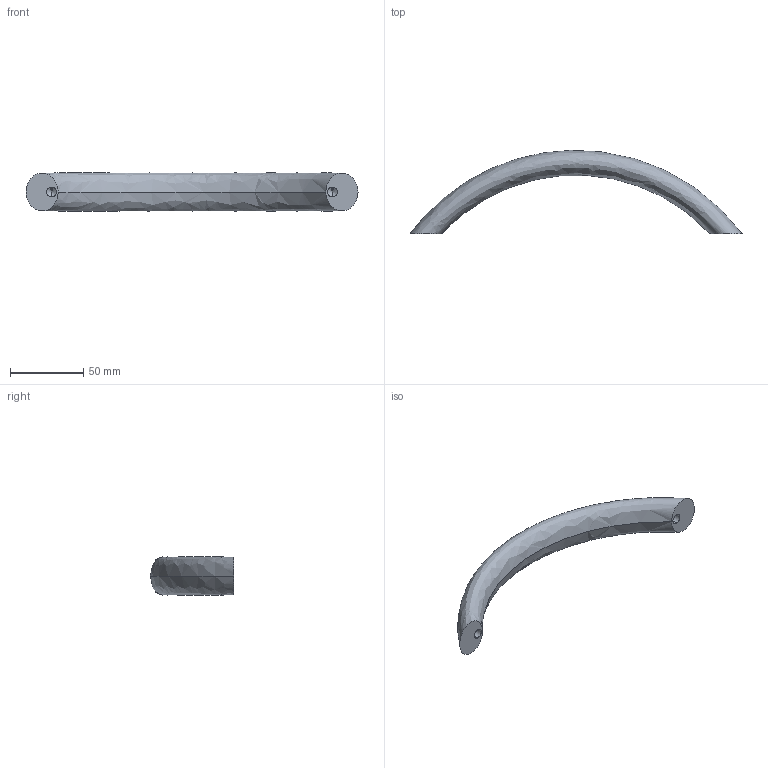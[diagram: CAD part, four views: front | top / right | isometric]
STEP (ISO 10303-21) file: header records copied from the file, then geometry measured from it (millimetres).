
FILE_DESCRIPTION (( 'STEP AP203' ), '1' );
FILE_NAME ('gn565-4_a_192-m8.step', '2010-11-02T08:21:14', ( '_' ), ( '_' ), 'SwSTEP 2.0', 'SolidWorks 2010', '' );
FILE_SCHEMA (( 'CONFIG_CONTROL_DESIGN' ));
Length unit declared in the file: millimetre
Products named in the file (1): gn565-4_a_192-m8
Bounding box: 227 x 56.95 x 26 mm (x, y, z)
Volume: 81100.5 mm3; surface area: 17439.7 mm2
Topology: 1 solids, 1 shells, 12 faces, 26 edges, 14 vertices
Faces by surface type: cone 4, cylinder 4, bspline 2, plane 2
Entity records: 1337 total; most frequent: CARTESIAN_POINT 1029, DIRECTION 46, ORIENTED_EDGE 44, EDGE_CURVE 22, AXIS2_PLACEMENT_3D 19, EDGE_LOOP 14, VERTEX_POINT 14, ADVANCED_FACE 12
